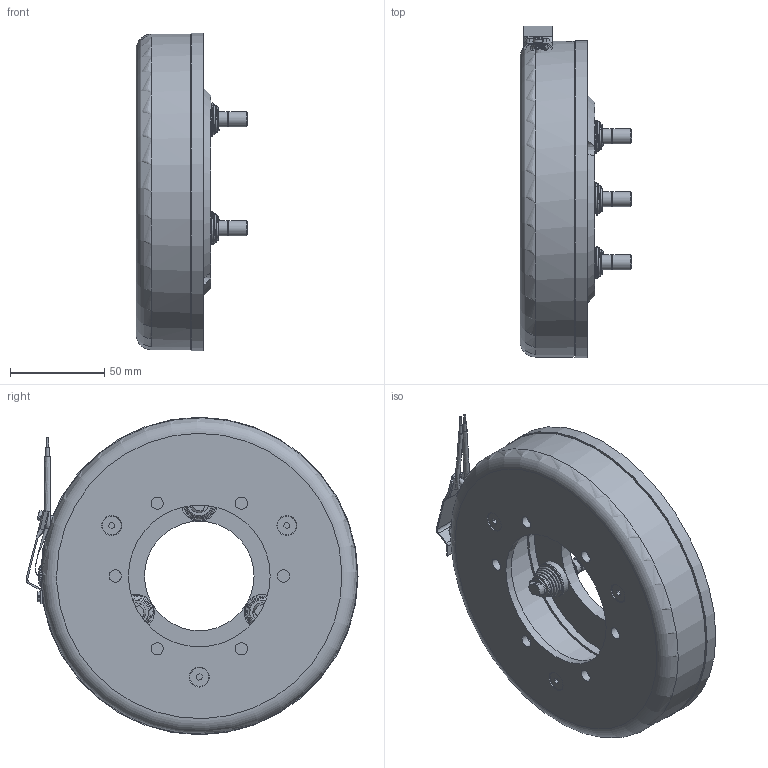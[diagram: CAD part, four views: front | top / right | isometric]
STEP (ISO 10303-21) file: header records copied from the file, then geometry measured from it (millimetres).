
FILE_DESCRIPTION((''),'2;1');
FILE_NAME('T:\IVAN\ARCHIVIO INVENTOR\DISEGNI\Matteo\08_Freni_Friz_Elettromagnetici_Monodisco\08_04 EMF\08_04_170_01 EMF170\08_04_170_01 EMF170.stp','2008-11-27T14:19:06',('Matteocad'),(''),'Autodesk Inventor 2009','Autodesk Inventor 2009','');
FILE_SCHEMA(('AUTOMOTIVE_DESIGN { 1 0 10303 214 1 1 1 1 }'));
Length unit declared in the file: millimetre
Products named in the file (20): 08_04_170_01 EMF170; C119_080517001 COPPA x FRENO EMF170 SENZA ANELLO; C024_080417001 ANELLO ISOLAMENTO EMF170; C029_080417001 ANELLO INTERNO COPPA MAGNETE EMF170 abbassato_2; DIN 7991 M5x12; C080_080317001 Ferodo 160x110x4_2; Resina 08_04_170_01 EMF170; Bobina 08_04_170_01 EMF170; C113_08011701 ARMATURA x PERNI EMC-EMF170; C144_080114501 BOCCOLA x ARMATURE EMC-EMF145-170; C140_080114501 PERNO x EMC-EMF145-170; Anellino di fissagio per perno EMF145 08_04_145-01; C145_080414501 SCODELLINO di BATTUTA x PERNO EMC-EMF145-170; DIN 471 10x1; R047_080114501P MOLLA CONICA 1,2 EMC-EMF145-170; R047_080114501L MOLLA CONICA 0,8 EMC-EMF145-170; C073_09_Gommino_Salvafilo_D=09+Cavetti x basetta 170; R150. 15x50x9 Basetta fissa cavi - 140; BS 4183 Vite a testa cilindrica con intaglio - Metrico M3 x 6; BS 4183 Vite a testa cilindrica con intaglio - Metrico M3 x 8
Assembly tree (35 placements, depth 2):
  08_04_170_01 EMF170
    C119_080517001 COPPA x FRENO EMF170 SENZA ANELLO
    C024_080417001 ANELLO ISOLAMENTO EMF170
    C029_080417001 ANELLO INTERNO COPPA MAGNETE EMF170 abbassato_2
    DIN 7991 M5x12  x3
    C080_080317001 Ferodo 160x110x4_2
    Resina 08_04_170_01 EMF170
    Bobina 08_04_170_01 EMF170
    C113_08011701 ARMATURA x PERNI EMC-EMF170
    C144_080114501 BOCCOLA x ARMATURE EMC-EMF145-170  x3
    C140_080114501 PERNO x EMC-EMF145-170  x3
    Anellino di fissagio per perno EMF145 08_04_145-01  x3
    C145_080414501 SCODELLINO di BATTUTA x PERNO EMC-EMF145-170  x3
    DIN 471 10x1  x3
    R047_080114501P MOLLA CONICA 1,2 EMC-EMF145-170  x3
    R047_080114501L MOLLA CONICA 0,8 EMC-EMF145-170  x3
    C073_09_Gommino_Salvafilo_D=09+Cavetti x basetta 170
    R150. 15x50x9 Basetta fissa cavi - 140
    BS 4183 Vite a testa cilindrica con intaglio - Metrico M3 x 6
    BS 4183 Vite a testa cilindrica con intaglio - Metrico M3 x 8
Bounding box: 59.1 x 175.69 x 168 mm (x, y, z)
Volume: 541977.2 mm3; surface area: 226856.8 mm2
Topology: 35 solids, 35 shells, 387 faces, 824 edges, 542 vertices
Faces by surface type: plane 187, cylinder 90, bspline 71, cone 30, torus 9
Full cylindrical faces by diameter (mm): 1.067 x1, 1.8 x1, 2 x2, 2.693 x2, 3 x2, 4 x1, 5 x3, 6.5 x3, 8 x6, 9 x2, 9.6 x3, 10 x12, 10.5 x3, 11 x1, 15 x3, 19 x6, 58 x1, 75 x1, 99 x1, 100 x2, 110 x2, 113 x5, 156 x3, 160 x2, 167 x1, 168 x1
Entity records: 13645 total; most frequent: CARTESIAN_POINT 7945, DIRECTION 1096, ORIENTED_EDGE 844, AXIS2_PLACEMENT_3D 485, EDGE_LOOP 441, EDGE_CURVE 422, VERTEX_POINT 330, CIRCLE 246
